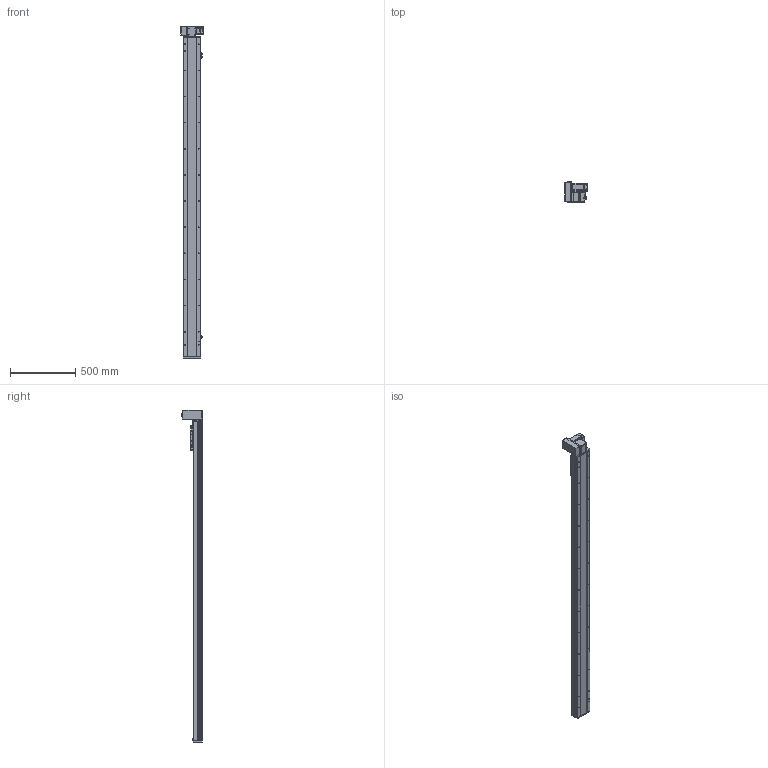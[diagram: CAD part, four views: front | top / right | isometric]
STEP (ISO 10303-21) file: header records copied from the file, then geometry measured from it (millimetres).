
FILE_DESCRIPTION (( 'STEP AP214' ), '1' );
FILE_NAME ('TPE14-L40-2150-LU-T40-C4.STEP', '2023-04-13T02:34:57', ( '' ), ( '' ), 'SwSTEP 2.0', 'SolidWorks 2020', '' );
FILE_SCHEMA (( 'AUTOMOTIVE_DESIGN' ));
Length unit declared in the file: millimetre
Products named in the file (10): 葩璃 TPE14 賑雄殤^TPE14-L40-LU-T40-C4; 葩璃 TPE14-L-002 耜裔ZTMZ-135-04^TPE14-L40-LU-T40-C4; TPE14-L40-2150-LU-T40-C4; 葩璃 侂狟400W^TPE14-L40-LU-T40-C4; 葩璃 詩湍75^TPE14-L40-LU-T40-C4; hexagon head bolts-full thread gb_GB_FASTENER_BOLT_STBAB A M5X16-N; 葩璃 TPE14-L-007 々湍釱MZ-169x88^TPE14-L40-LU-T40-C4_YCB14; 葩璃 TPT14-L-009 萇儂啣^TPE14-L40-LU-T40-C4_400W; 葩璃 pm-t65-672^TPE14-L40-LU-T40-C4; 葩璃 TPE14-L-001 菁釱MZ-135-01^TPE14-L40-LU-T40-C4
Assembly tree (12 placements, depth 2):
  TPE14-L40-2150-LU-T40-C4
    葩璃 TPE14-L-001 菁釱MZ-135-01^TPE14-L40-LU-T40-C4
    葩璃 TPE14-L-002 耜裔ZTMZ-135-04^TPE14-L40-LU-T40-C4  x2
    葩璃 詩湍75^TPE14-L40-LU-T40-C4
    葩璃 TPE14-L-007 々湍釱MZ-169x88^TPE14-L40-LU-T40-C4_YCB14
    葩璃 TPT14-L-009 萇儂啣^TPE14-L40-LU-T40-C4_400W
    葩璃 TPE14 賑雄殤^TPE14-L40-LU-T40-C4
    葩璃 pm-t65-672^TPE14-L40-LU-T40-C4  x3
    葩璃 侂狟400W^TPE14-L40-LU-T40-C4
    hexagon head bolts-full thread gb_GB_FASTENER_BOLT_STBAB A M5X16-N
Bounding box: 172.5 x 160.85 x 2540.5 mm (x, y, z)
Volume: 12635865.7 mm3; surface area: 2386398.1 mm2
Topology: 23 solids, 23 shells, 1460 faces, 3787 edges, 2390 vertices
Faces by surface type: plane 823, cylinder 445, cone 158, bspline 34
Entity records: 39107 total; most frequent: CARTESIAN_POINT 7558, DIRECTION 6248, ORIENTED_EDGE 6018, EDGE_CURVE 3009, AXIS2_PLACEMENT_3D 2134, LINE 1980, VECTOR 1980, VERTEX_POINT 1938
